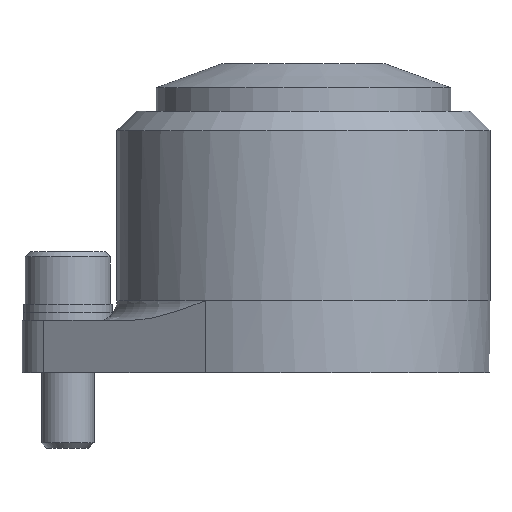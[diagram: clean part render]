
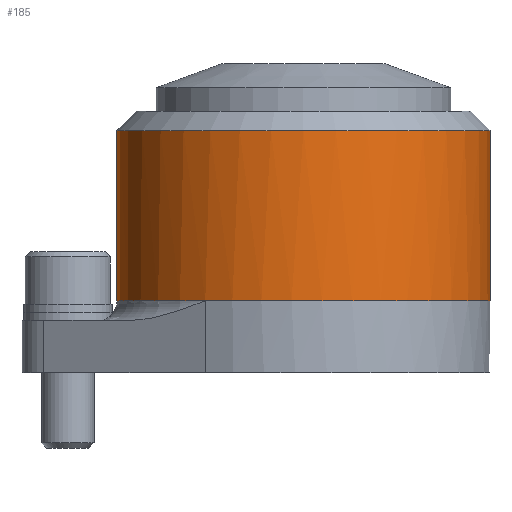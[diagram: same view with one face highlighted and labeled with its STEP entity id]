
A CAD part, front view. The second image highlights one B-rep face of the part: STEP entity #185.
In plain terms, the highlighted cylindrical face has radius 28.5 mm (diameter 57 mm), a partial arc.
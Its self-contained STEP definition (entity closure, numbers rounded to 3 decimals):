
#185=ADVANCED_FACE('',(#298),#260,.T.);
#260=CYLINDRICAL_SURFACE('',#1338,28.5);
#298=FACE_OUTER_BOUND('',#362,.T.);
#362=EDGE_LOOP('',(#567,#568,#569,#570,#571));
#448=CIRCLE('',#1313,28.5);
#466=CIRCLE('',#1336,28.5);
#467=CIRCLE('',#1337,28.5);
#567=ORIENTED_EDGE('',*,*,#987,.T.);
#568=ORIENTED_EDGE('',*,*,#1012,.T.);
#569=ORIENTED_EDGE('',*,*,#1013,.F.);
#570=ORIENTED_EDGE('',*,*,#1010,.F.);
#571=ORIENTED_EDGE('',*,*,#1014,.T.);
#877=VERTEX_POINT('',#1889);
#878=VERTEX_POINT('',#1891);
#896=VERTEX_POINT('',#1935);
#897=VERTEX_POINT('',#1937);
#898=VERTEX_POINT('',#1939);
#987=EDGE_CURVE('',#878,#877,#448,.T.);
#1010=EDGE_CURVE('',#896,#897,#1162,.T.);
#1012=EDGE_CURVE('',#877,#898,#1163,.T.);
#1013=EDGE_CURVE('',#897,#898,#466,.T.);
#1014=EDGE_CURVE('',#896,#878,#467,.T.);
#1162=LINE('',#1936,#1240);
#1163=LINE('',#1940,#1241);
#1240=VECTOR('',#1529,1.);
#1241=VECTOR('',#1532,1.);
#1313=AXIS2_PLACEMENT_3D('',#1890,#1481,#1482);
#1336=AXIS2_PLACEMENT_3D('',#1942,#1535,#1536);
#1337=AXIS2_PLACEMENT_3D('',#1943,#1537,#1538);
#1338=AXIS2_PLACEMENT_3D('',#1944,#1539,#1540);
#1481=DIRECTION('',(0.,0.,1.));
#1482=DIRECTION('',(-1.,0.,0.));
#1529=DIRECTION('',(0.,0.,1.));
#1532=DIRECTION('',(0.,0.,1.));
#1535=DIRECTION('',(0.,0.,1.));
#1536=DIRECTION('',(0.,1.,0.));
#1537=DIRECTION('',(0.,0.,1.));
#1538=DIRECTION('',(0.,1.,0.));
#1539=DIRECTION('',(0.,0.,1.));
#1540=DIRECTION('',(0.,-1.,0.));
#1889=CARTESIAN_POINT('',(28.5,0.,11.));
#1890=CARTESIAN_POINT('',(0.,0.,11.));
#1891=CARTESIAN_POINT('',(-15.001,-24.232,11.));
#1935=CARTESIAN_POINT('',(-28.5,0.,11.));
#1936=CARTESIAN_POINT('',(-28.5,0.,37.));
#1937=CARTESIAN_POINT('',(-28.5,0.,37.));
#1939=CARTESIAN_POINT('',(28.5,0.,37.));
#1940=CARTESIAN_POINT('',(28.5,0.,37.));
#1942=CARTESIAN_POINT('',(0.,0.,37.));
#1943=CARTESIAN_POINT('',(0.,0.,11.));
#1944=CARTESIAN_POINT('',(0.,0.,0.));
